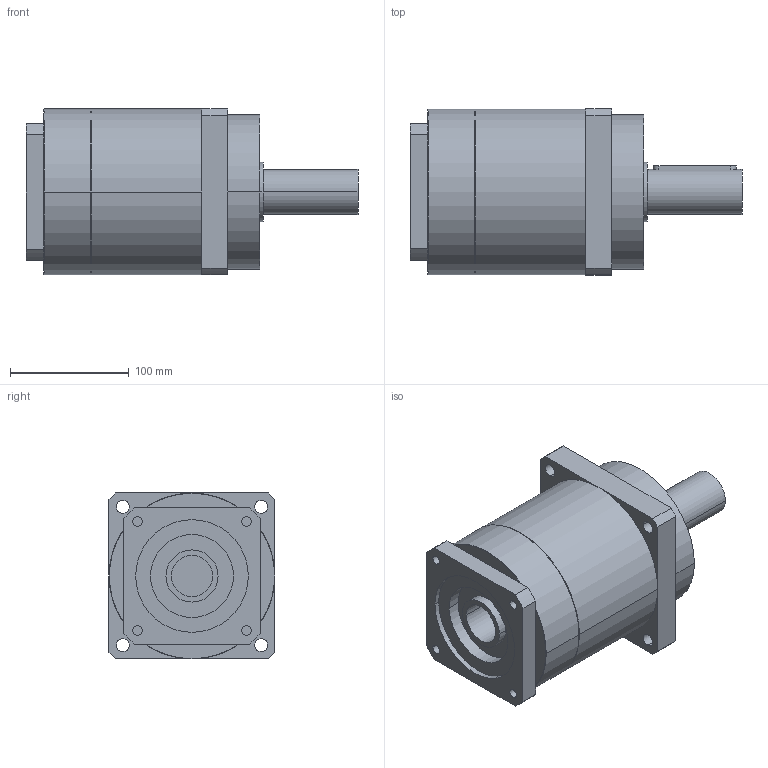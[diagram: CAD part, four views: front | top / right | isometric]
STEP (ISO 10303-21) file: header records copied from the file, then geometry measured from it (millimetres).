
FILE_DESCRIPTION(('CoCreate Modeling STEP Export'),'2;1');
FILE_NAME('GPR150_ig-3-4-5-7_38_B5_35_P10.stp','2014-08-19T16:43:17',(''),(''),'CoCreate Modeling STEP processor for AP214 (Solid Model)','CoCreate Modeling 16.00C 25-Feb-2009 (C) Parametric Technology GmbH','');
FILE_SCHEMA(('AUTOMOTIVE_DESIGN { 1 0 10303 214 1 1 1 1 }'));
Length unit declared in the file: millimetre
Products named in the file (2): GPR150_ig-3-4-5-7_38_B5_35_P10
Assembly tree (1 placements, depth 2):
  GPR150_ig-3-4-5-7_38_B5_35_P10
    GPR150_ig-3-4-5-7_38_B5_35_P10
Bounding box: 280 x 140 x 140 mm (x, y, z)
Volume: 2983363.5 mm3; surface area: 156111.7 mm2
Topology: 1 solids, 1 shells, 89 faces, 225 edges, 149 vertices
Faces by surface type: cylinder 46, plane 37, cone 6
Entity records: 2343 total; most frequent: ORIENTED_EDGE 446, CARTESIAN_POINT 429, DIRECTION 326, EDGE_CURVE 223, VERTEX_POINT 149, AXIS2_PLACEMENT_3D 118, EDGE_LOOP 110, VECTOR 90
